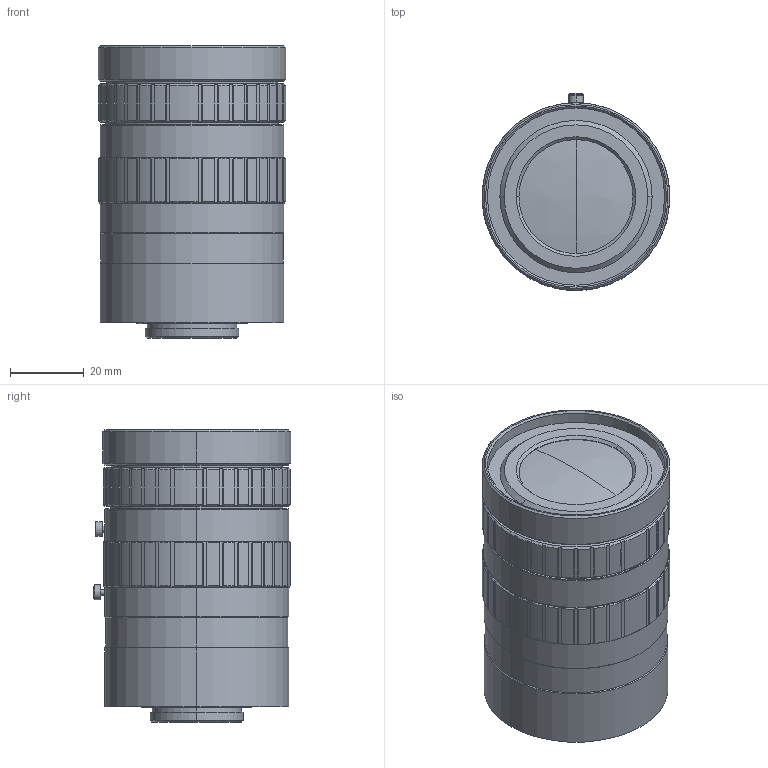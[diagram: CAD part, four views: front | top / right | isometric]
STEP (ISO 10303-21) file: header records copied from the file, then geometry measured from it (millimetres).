
FILE_DESCRIPTION (( 'STEP AP214' ), '1' );
FILE_NAME ('HF25SA-1_3D_Modeling.STEP', '2016-06-07T04:21:18', ( '富士フイルム株式会社' ), ( '富士フイルム株式会社' ), 'SwSTEP 2.0', 'SolidWorks 2014', '' );
FILE_SCHEMA (( 'AUTOMOTIVE_DESIGN' ));
Length unit declared in the file: millimetre
Products named in the file (1): HF25SA-1_3D_Modeling
Bounding box: 51 x 53.6 x 79.51 mm (x, y, z)
Volume: 145627.6 mm3; surface area: 18590.7 mm2
Topology: 1 solids, 1 shells, 342 faces, 942 edges, 619 vertices
Faces by surface type: cylinder 162, plane 146, cone 32, sphere 2
Entity records: 11404 total; most frequent: CARTESIAN_POINT 2824, ORIENTED_EDGE 1884, DIRECTION 1728, EDGE_CURVE 942, AXIS2_PLACEMENT_3D 703, VERTEX_POINT 619, CIRCLE 360, EDGE_LOOP 359
